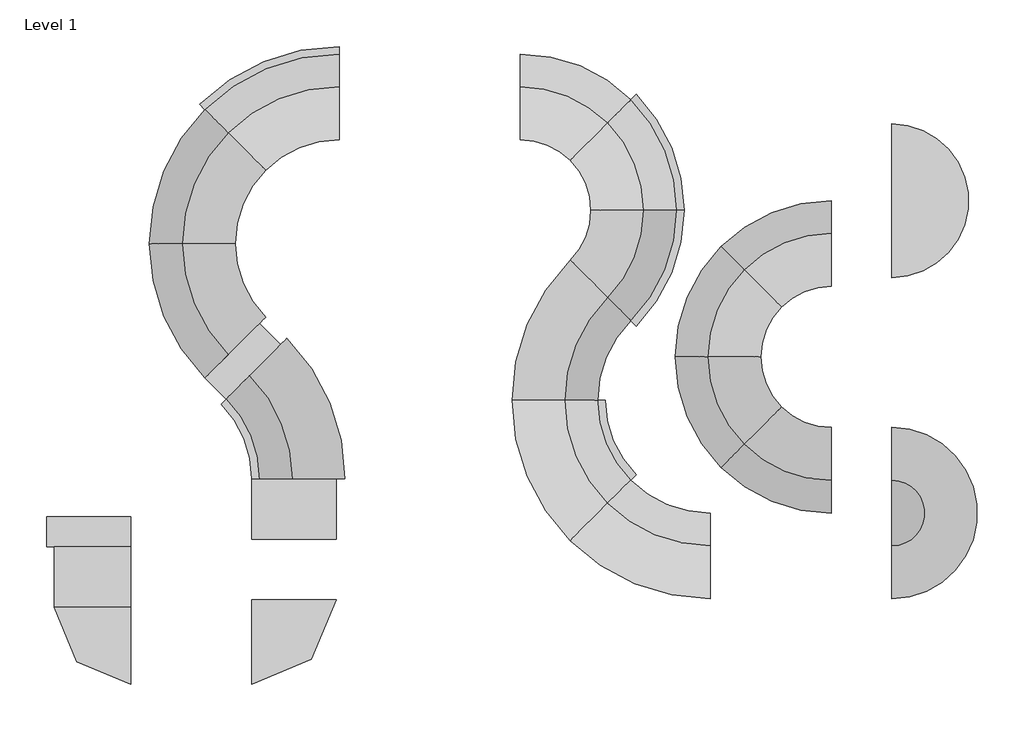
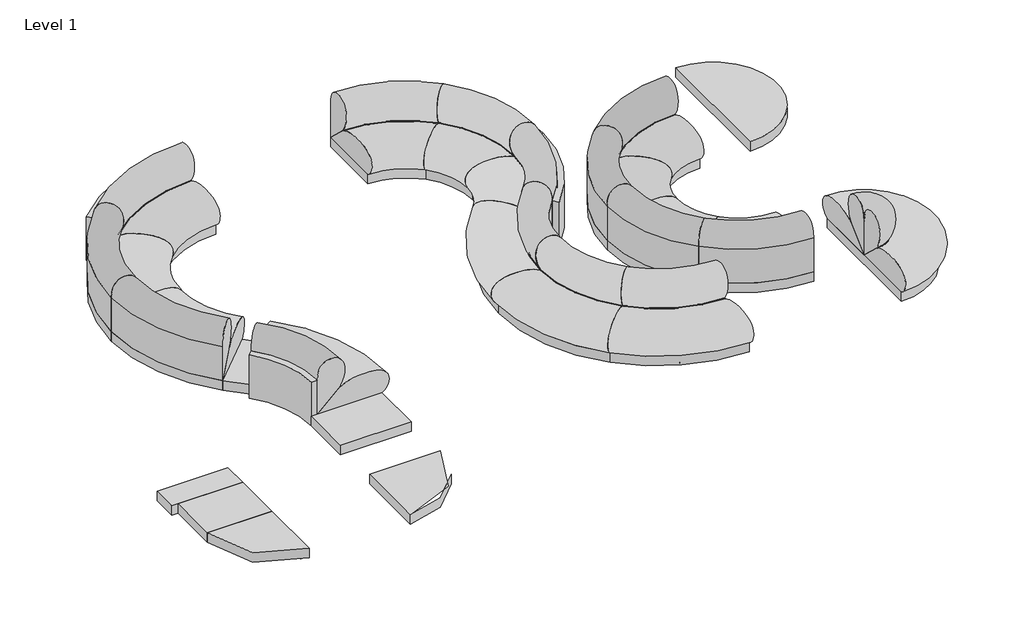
# One storey, incomplete: 22 furniture elements.
"""IFC4 building model written with IfcOpenShell, lengths in millimetres."""

from ifc_helpers import new_model, si_unit, origin, place, context, project, spatial, transform, mapped, element, save
from components import furniture_12de517c, furniture_8e5c6466, cr_long_dad4952b, cr_short_cb8f5fb0, r28_back_6dc95181, r28_back_d38f0ebb, r28_no_back_1175cd47, r28_no_back_2f0992d9, r40_back_401833ee, r40_no_back_3ae10d6b, r40_no_back_c89d3c7e, r80_back_22fe0665, r80_no_back_58fa6912, st12_long_e446e66b, st12_short_dc3a65f2, st24_long_0afb67d4, st24_short_014de74c

model = new_model("IFC4")

# Units and contexts
model_context = context("Model", 3, world=origin())
ifc_project = project(units=[si_unit("LENGTHUNIT", "METRE", prefix="MILLI")], contexts=[model_context])

# Site, building, storey
site = spatial("IfcSite", under=ifc_project)
building = spatial("IfcBuilding", under=site)
storey = spatial("IfcBuildingStorey", under=building, Name="Level 1", Elevation=0.0)

# Furniture
placement = place(None, origin())
furniture_shape = furniture_12de517c(model_context)
element("IfcFurniture", 1, ObjectType="Memo_Candy_EndUnit : Memo_Candy_EndUnit", at=placement, inside=storey, context=model_context, shape_type="MappedRepresentation", body=[
    mapped(furniture_shape, transform((7941.2673959, -1743.7389824, 0.0), x_axis=(0.0, 1.0, 0.0), y_axis=(-1.0, 0.0, 0.0), z_axis=(0.0, 0.0, 1.0))),
])
furniture_2_shape = furniture_8e5c6466(model_context)
element("IfcFurniture", 2, ObjectType="Memo_Candy_Table_EndUnit : Memo_Candy_Table_EndUnit", at=placement, inside=storey, context=model_context, shape_type="MappedRepresentation", body=[
    mapped(furniture_2_shape, transform((7941.2673959, 1405.8610176, 0.0), x_axis=(0.0, 1.0, 0.0), y_axis=(-1.0, 0.0, 0.0), z_axis=(0.0, 0.0, 1.0))),
])
cr_long_shape = cr_long_dad4952b(model_context)
element("IfcFurniture", 3, ObjectType="Memo_Candy_Table_Corner : CR_Long", at=placement, inside=storey, context=model_context, shape_type="MappedRepresentation", body=[
    mapped(cr_long_shape, transform((1369.976079, -2899.1990171, 0.0), x_axis=(0.707106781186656, 0.7071067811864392, 0.0), y_axis=(-0.7071067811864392, 0.707106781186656, 0.0), z_axis=(0.0, 0.0, 1.0))),
])
cr_short_shape = cr_short_cb8f5fb0(model_context)
element("IfcFurniture", 4, ObjectType="Memo_Candy_Table_Corner : CR_Short", at=placement, inside=storey, context=model_context, shape_type="MappedRepresentation", body=[
    mapped(cr_short_shape, transform((-414.9800566, -2975.3990171, 0.0), x_axis=(-0.707106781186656, 0.7071067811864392, 0.0), y_axis=(-0.7071067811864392, -0.707106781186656, 0.0), z_axis=(0.0, 0.0, 1.0))),
])
r28_back_shape = r28_back_6dc95181(model_context)
element("IfcFurniture", 5, ObjectType="Memo_Candy_CurveInside_R28 : R28_Back", at=placement, inside=storey, context=model_context, shape_type="MappedRepresentation", body=[
    mapped(r28_back_shape, transform((4880.5108142, 1759.7740288, 0.0), x_axis=(-0.3826834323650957, 0.9238795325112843, 0.0), y_axis=(-0.9238795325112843, -0.3826834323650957, 0.0), z_axis=(0.0, 0.0, 1.0))),
])
r28_back_2_shape = r28_back_d38f0ebb(model_context)
element("IfcFurniture", 6, ObjectType="Memo_Candy_CurveInside_R28 : R28_Back", at=placement, inside=storey, context=model_context, shape_type="MappedRepresentation", body=[
    mapped(r28_back_2_shape, transform((4880.5108142, 860.6593045, 0.0), x_axis=(-0.38268343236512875, -0.9238795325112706, 0.0), y_axis=(0.9238795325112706, -0.38268343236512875, 0.0), z_axis=(0.0, 0.0, 1.0))),
])
r28_no_back_shape = r28_no_back_1175cd47(model_context)
element("IfcFurniture", 7, ObjectType="Memo_Candy_CurveInside_R28 : R28_No Back", at=placement, inside=storey, context=model_context, shape_type="MappedRepresentation", body=[
    mapped(r28_no_back_shape, transform((5846.2899151, -618.4963445, 0.0), x_axis=(0.3826834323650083, -0.9238795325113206, 0.0), y_axis=(0.9238795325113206, 0.3826834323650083, 0.0), z_axis=(0.0, 0.0, 1.0))),
])
element("IfcFurniture", 8, ObjectType="Memo_Candy_CurveInside_R28 : R28_No Back", at=placement, inside=storey, context=model_context, shape_type="MappedRepresentation", body=[
    mapped(r28_no_back_shape, transform((6482.0600338, 916.3884985, 0.0), x_axis=(-0.923879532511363, -0.38268343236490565, 0.0), y_axis=(0.38268343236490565, -0.923879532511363, 0.0), z_axis=(0.0, 0.0, 1.0))),
])
r28_no_back_2_shape = r28_no_back_2f0992d9(model_context)
element("IfcFurniture", 9, ObjectType="Memo_Candy_CurveInside_R28 : R28_No Back", at=placement, inside=storey, context=model_context, shape_type="MappedRepresentation", body=[
    mapped(r28_no_back_2_shape, transform((4244.7406955, 2395.5441475, 0.0), x_axis=(0.9238795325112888, -0.38268343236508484, 0.0), y_axis=(0.38268343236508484, 0.9238795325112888, 0.0), z_axis=(0.0, 0.0, 1.0))),
])
element("IfcFurniture", 10, ObjectType="Memo_Candy_CurveInside_R28 : R28_No Back", at=placement, inside=storey, context=model_context, shape_type="MappedRepresentation", body=[
    mapped(r28_no_back_2_shape, transform((6482.0600338, -1254.2664632, 0.0), x_axis=(-0.923879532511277, 0.38268343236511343, 0.0), y_axis=(-0.38268343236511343, -0.923879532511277, 0.0), z_axis=(0.0, 0.0, 1.0))),
])
element("IfcFurniture", 11, ObjectType="Memo_Candy_CurveInside_R28 : R28_No Back", at=placement, inside=storey, context=model_context, shape_type="MappedRepresentation", body=[
    mapped(r28_no_back_2_shape, transform((5846.2899151, 280.6183798, 0.0), x_axis=(0.3826834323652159, 0.9238795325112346, 0.0), y_axis=(-0.9238795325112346, 0.3826834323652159, 0.0), z_axis=(0.0, 0.0, 1.0))),
])
r40_back_shape = r40_back_401833ee(model_context)
element("IfcFurniture", 12, ObjectType="Memo_Candy_CurveInside_R40 : R40_Back", at=placement, inside=storey, context=model_context, shape_type="MappedRepresentation", body=[
    mapped(r40_back_shape, transform((1388.033862, 2369.9258042, 0.0), x_axis=(0.9238795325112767, 0.38268343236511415, 0.0), y_axis=(-0.38268343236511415, 0.9238795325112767, 0.0), z_axis=(0.0, 0.0, 1.0))),
])
r40_no_back_shape = r40_no_back_3ae10d6b(model_context)
element("IfcFurniture", 13, ObjectType="Memo_Candy_CurveInside_R40 : R40_No Back", at=placement, inside=storey, context=model_context, shape_type="MappedRepresentation", body=[
    mapped(r40_no_back_shape, transform((570.1241958, 1552.016138, 0.0), x_axis=(-0.38268343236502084, -0.9238795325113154, 0.0), y_axis=(0.9238795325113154, -0.38268343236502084, 0.0), z_axis=(0.0, 0.0, 1.0))),
])
r40_no_back_2_shape = r40_no_back_c89d3c7e(model_context)
element("IfcFurniture", 14, ObjectType="Memo_Candy_CurveInside_R40 : R40_No Back", at=placement, inside=storey, context=model_context, shape_type="MappedRepresentation", body=[
    mapped(r40_no_back_2_shape, transform((570.1241958, 395.3171953, 0.0), x_axis=(-0.38268343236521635, 0.9238795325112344, 0.0), y_axis=(-0.9238795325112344, -0.38268343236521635, 0.0), z_axis=(0.0, 0.0, 1.0))),
])
r80_back_shape = r80_back_22fe0665(model_context)
element("IfcFurniture", 15, ObjectType="Memo_Candy_CurveOutside_R80 : R80_Back", at=placement, inside=storey, context=model_context, shape_type="MappedRepresentation", body=[
    mapped(r80_back_shape, transform((4292.6917183, -1195.1586129, 0.0), x_axis=(0.3826834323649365, -0.9238795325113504, 0.0), y_axis=(0.9238795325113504, 0.3826834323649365, 0.0), z_axis=(0.0, 0.0, 1.0))),
])
element("IfcFurniture", 16, ObjectType="Memo_Candy_CurveOutside_R80 : R80_Back", at=placement, inside=storey, context=model_context, shape_type="MappedRepresentation", body=[
    mapped(r80_back_shape, transform((1446.3736888, -809.0513188, 0.0), x_axis=(-0.38268343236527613, 0.9238795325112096, 0.0), y_axis=(-0.9238795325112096, -0.38268343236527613, 0.0), z_axis=(0.0, 0.0, 1.0))),
])
r80_no_back_shape = r80_no_back_58fa6912(model_context)
element("IfcFurniture", 17, ObjectType="Memo_Candy_CurveOutside_R80 : R80_No Back", at=placement, inside=storey, context=model_context, shape_type="MappedRepresentation", body=[
    mapped(r80_no_back_shape, transform((4292.7423376, -18.9983847, 0.0), x_axis=(0.3826834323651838, 0.9238795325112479, 0.0), y_axis=(-0.9238795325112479, 0.3826834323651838, 0.0), z_axis=(0.0, 0.0, 1.0))),
])
element("IfcFurniture", 18, ObjectType="Memo_Candy_CurveOutside_R80 : R80_No Back", at=placement, inside=storey, context=model_context, shape_type="MappedRepresentation", body=[
    mapped(r80_no_back_shape, transform((5124.3477654, -2026.81466, 0.0), x_axis=(-0.9238795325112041, 0.38268343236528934, 0.0), y_axis=(-0.38268343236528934, -0.9238795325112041, 0.0), z_axis=(0.0, 0.0, 1.0))),
])
st12_long_shape = st12_long_e446e66b(model_context)
element("IfcFurniture", 19, ObjectType="Memo_Candy_Table_Straight : ST12_Long", at=placement, inside=storey, context=model_context, shape_type="MappedRepresentation", body=[
    mapped(st12_long_shape, transform((-506.7519888, -1930.5209493, 0.0), x_axis=(0.0, 1.0, 0.0), y_axis=(-1.0, 0.0, 0.0), z_axis=(0.0, 0.0, 1.0))),
])
st12_short_shape = st12_short_dc3a65f2(model_context)
element("IfcFurniture", 20, ObjectType="Memo_Candy_Table_Straight : ST12_Short", at=placement, inside=storey, context=model_context, shape_type="MappedRepresentation", body=[
    mapped(st12_short_shape, transform((987.5354161, -220.7073974, 0.0), x_axis=(0.7071067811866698, -0.7071067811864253, 0.0), y_axis=(0.7071067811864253, 0.7071067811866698, 0.0), z_axis=(0.0, 0.0, 1.0))),
])
st24_long_shape = st24_long_0afb67d4(model_context)
element("IfcFurniture", 21, ObjectType="Memo_Candy_Table_Straight : ST24_Long", at=placement, inside=storey, context=model_context, shape_type="MappedRepresentation", body=[
    mapped(st24_long_shape, transform((1563.3480112, -1701.9209493, 0.0), x_axis=(0.0, -1.0, 0.0), y_axis=(1.0, 0.0, 0.0), z_axis=(0.0, 0.0, 1.0))),
])
st24_short_shape = st24_short_014de74c(model_context)
element("IfcFurniture", 22, ObjectType="Memo_Candy_Table_Straight : ST24_Short", at=placement, inside=storey, context=model_context, shape_type="MappedRepresentation", body=[
    mapped(st24_short_shape, transform((-506.7519888, -2387.7209493, 0.0), x_axis=(0.0, -1.0, 0.0), y_axis=(1.0, 0.0, 0.0), z_axis=(0.0, 0.0, 1.0))),
])

save(model, "model.ifc")
